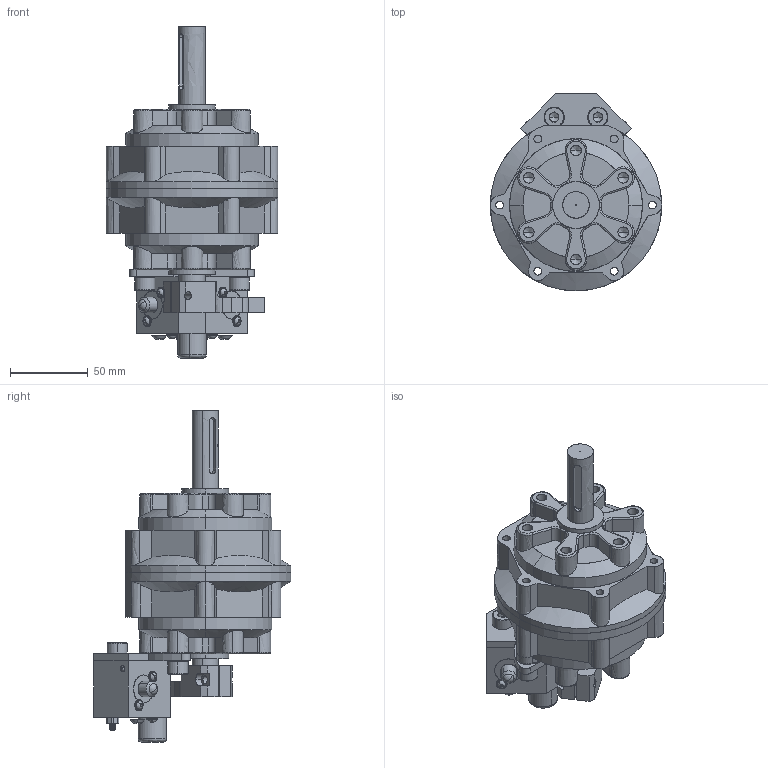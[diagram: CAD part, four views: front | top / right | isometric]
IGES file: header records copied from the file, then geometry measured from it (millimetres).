
Start section: SolidWorks IGES file using analytic representation for surfaces
Global section: file name: C:\Users\Chieh_Lu\Dropbox\¤u§@«Ç\PRN50-150-300-800\PRN150\PRN150\PRN150#-#-#-#-CR.IGS; native system: SolidWorks 2014; preprocessor: SolidWorks 2014; author: Chieh_Lu; date: 160115.004336; units: millimetre
Bounding box: 110 x 127 x 213 mm (x, y, z)
Surface area: 131927.5 mm2 (no closed solid volume)
Topology: 0 solids, 0 shells, 968 faces, 12420 edges, 12376 vertices
Faces by surface type: bspline 513, revolution 455
